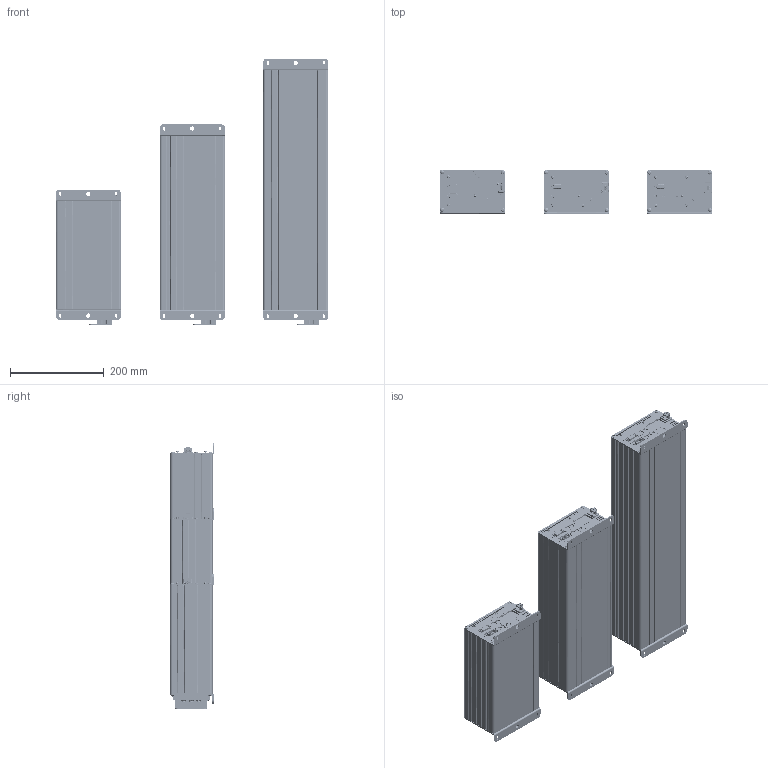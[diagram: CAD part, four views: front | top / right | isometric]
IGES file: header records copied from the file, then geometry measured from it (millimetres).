
Global section: file name: CHCOM230,370,510_단순화_1; native system: Autodesk Inventor 2026; preprocessor: unknown; author: Administrator; date: 20260810.093433; units: millimetre
Bounding box: 580.24 x 94.06 x 567.51 mm (x, y, z)
Volume: 1897506.1 mm3; surface area: 1512068.8 mm2
Topology: 27 solids, 27 shells, 15915 faces, 43744 edges, 29062 vertices
Faces by surface type: bspline 15915
